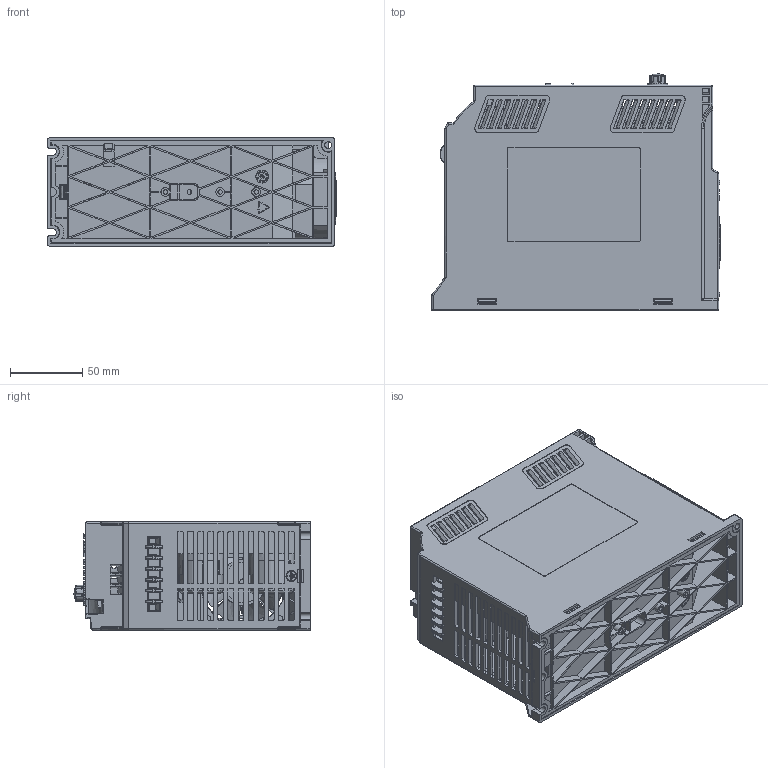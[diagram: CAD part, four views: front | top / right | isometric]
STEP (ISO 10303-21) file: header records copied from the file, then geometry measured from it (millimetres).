
FILE_DESCRIPTION (( 'STEP AP214' ), '1' );
FILE_NAME ('KC100-2S-2R2G 軞傖.STEP', '2023-07-24T06:36:29', ( '' ), ( '' ), 'SwSTEP 2.0', 'SolidWorks 2020', '' );
FILE_SCHEMA (( 'AUTOMOTIVE_DESIGN' ));
Length unit declared in the file: millimetre
Products named in the file (1): KC100-2S-2R2G  軞傖
Bounding box: 200 x 163.9 x 75 mm (x, y, z)
Surface area: 343242.1 mm2 (no closed solid volume)
Topology: 0 solids, 83 shells, 2889 faces, 12332 edges, 9297 vertices
Faces by surface type: plane 1549, cylinder 948, bspline 224, torus 120, sphere 25, cone 23
Entity records: 181173 total; most frequent: CARTESIAN_POINT 54642, ORIENTED_EDGE 19014, DIRECTION 17187, EDGE_CURVE 12293, VERTEX_POINT 9297, LINE 7463, VECTOR 7463, AXIS2_PLACEMENT_3D 4862
